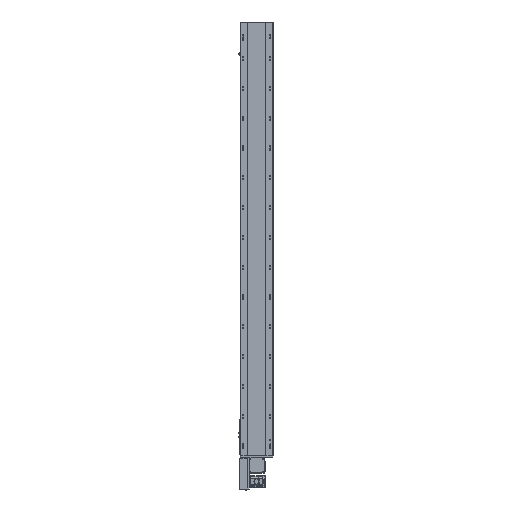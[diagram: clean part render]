
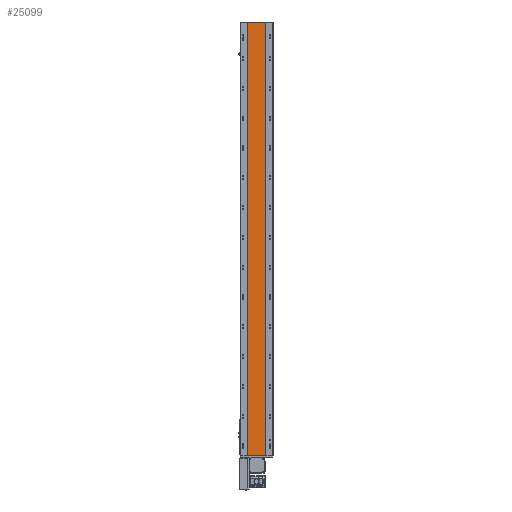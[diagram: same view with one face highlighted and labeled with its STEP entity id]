
A CAD part, front view. The second image highlights one B-rep face of the part: STEP entity #25099.
In plain terms, the highlighted planar face has unit normal (0, -1, 0).
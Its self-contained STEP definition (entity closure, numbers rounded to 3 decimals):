
#587 = FACE_OUTER_BOUND ( 'NONE', #12345, .T. ) ;
#1378 = VERTEX_POINT ( 'NONE', #50122 ) ;
#4120 = VECTOR ( 'NONE', #20309, 1000. ) ;
#7784 = CARTESIAN_POINT ( 'NONE',  ( 0., 155.016, 0. ) ) ;
#12133 = CARTESIAN_POINT ( 'NONE',  ( 0., 155.016, 2907. ) ) ;
#12345 = EDGE_LOOP ( 'NONE', ( #28441, #14271, #52686, #20613 ) ) ;
#12369 = EDGE_CURVE ( 'NONE', #1378, #28197, #32400, .T. ) ;
#12868 = DIRECTION ( 'NONE',  ( 0., 0., -1. ) ) ;
#14193 = VECTOR ( 'NONE', #18612, 1000. ) ;
#14271 = ORIENTED_EDGE ( 'NONE', *, *, #15865, .F. ) ;
#15865 = EDGE_CURVE ( 'NONE', #21671, #36892, #47545, .T. ) ;
#15944 = DIRECTION ( 'NONE',  ( 1., 0., 0. ) ) ;
#18612 = DIRECTION ( 'NONE',  ( 0., 0., -1. ) ) ;
#20309 = DIRECTION ( 'NONE',  ( 1., 0., 0. ) ) ;
#20613 = ORIENTED_EDGE ( 'NONE', *, *, #12369, .T. ) ;
#21123 = AXIS2_PLACEMENT_3D ( 'NONE', #25665, #30441, #51332 ) ;
#21671 = VERTEX_POINT ( 'NONE', #46645 ) ;
#25099 = ADVANCED_FACE ( 'NONE', ( #587 ), #30704, .F. ) ;
#25665 = CARTESIAN_POINT ( 'NONE',  ( 0., 155.016, 2907. ) ) ;
#28087 = VECTOR ( 'NONE', #12868, 1000. ) ;
#28197 = VERTEX_POINT ( 'NONE', #49318 ) ;
#28441 = ORIENTED_EDGE ( 'NONE', *, *, #37354, .T. ) ;
#30441 = DIRECTION ( 'NONE',  ( 0., 1., 0. ) ) ;
#30704 = PLANE ( 'NONE',  #21123 ) ;
#32215 = VECTOR ( 'NONE', #15944, 1000. ) ;
#32400 = LINE ( 'NONE', #49610, #14193 ) ;
#36892 = VERTEX_POINT ( 'NONE', #37792 ) ;
#37354 = EDGE_CURVE ( 'NONE', #28197, #36892, #55156, .T. ) ;
#37792 = CARTESIAN_POINT ( 'NONE',  ( 551.58, 155.016, 0. ) ) ;
#45973 = LINE ( 'NONE', #12133, #4120 ) ;
#46645 = CARTESIAN_POINT ( 'NONE',  ( 551.58, 155.016, 2907. ) ) ;
#47545 = LINE ( 'NONE', #55173, #28087 ) ;
#49318 = CARTESIAN_POINT ( 'NONE',  ( 432.408, 155.016, 0. ) ) ;
#49610 = CARTESIAN_POINT ( 'NONE',  ( 432.408, 155.016, 2907. ) ) ;
#50122 = CARTESIAN_POINT ( 'NONE',  ( 432.408, 155.016, 2907. ) ) ;
#51031 = EDGE_CURVE ( 'NONE', #1378, #21671, #45973, .T. ) ;
#51332 = DIRECTION ( 'NONE',  ( 0., 0., 1. ) ) ;
#52686 = ORIENTED_EDGE ( 'NONE', *, *, #51031, .F. ) ;
#55156 = LINE ( 'NONE', #7784, #32215 ) ;
#55173 = CARTESIAN_POINT ( 'NONE',  ( 551.58, 155.016, 2907. ) ) ;
